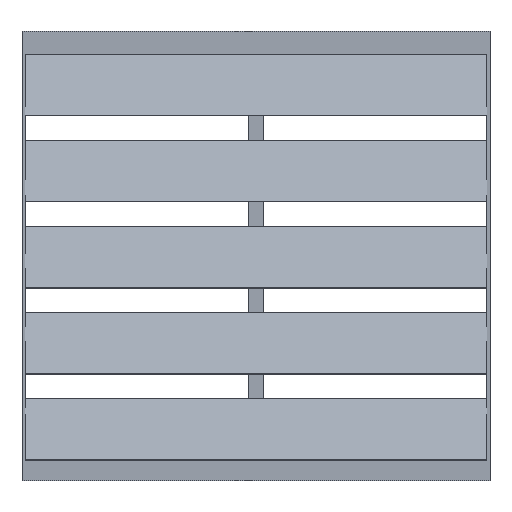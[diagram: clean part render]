
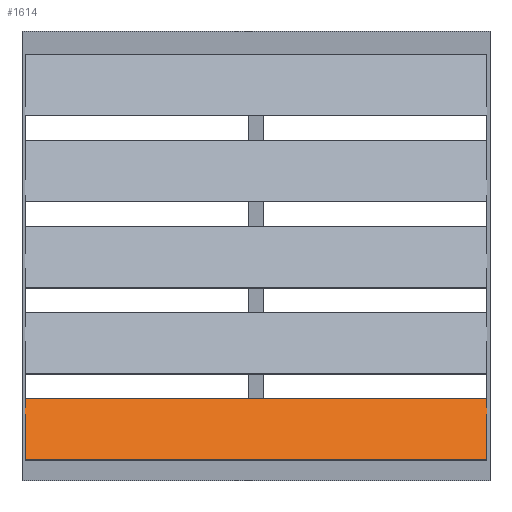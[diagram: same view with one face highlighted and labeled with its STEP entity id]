
A CAD part, front view. The second image highlights one B-rep face of the part: STEP entity #1614.
In plain terms, the highlighted planar face has unit normal (0, -0.707, 0.707).
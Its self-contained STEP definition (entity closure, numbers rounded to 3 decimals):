
#68=FACE_OUTER_BOUND('',#144,.T.);
#144=EDGE_LOOP('',(#1076,#1077,#1078,#1079,#1080,#1081,#1082,#1083));
#236=LINE('',#2247,#451);
#240=LINE('',#2254,#455);
#242=LINE('',#2259,#457);
#246=LINE('',#2266,#461);
#247=LINE('',#2268,#462);
#248=LINE('',#2270,#463);
#249=LINE('',#2271,#464);
#250=LINE('',#2272,#465);
#451=VECTOR('',#1813,10.);
#455=VECTOR('',#1819,10.);
#457=VECTOR('',#1823,10.);
#461=VECTOR('',#1829,10.);
#462=VECTOR('',#1832,10.);
#463=VECTOR('',#1835,10.);
#464=VECTOR('',#1836,10.);
#465=VECTOR('',#1837,10.);
#665=VERTEX_POINT('',#2244);
#666=VERTEX_POINT('',#2246);
#667=VERTEX_POINT('',#2250);
#668=VERTEX_POINT('',#2252);
#669=VERTEX_POINT('',#2256);
#670=VERTEX_POINT('',#2258);
#671=VERTEX_POINT('',#2262);
#672=VERTEX_POINT('',#2264);
#814=EDGE_CURVE('',#666,#665,#236,.T.);
#818=EDGE_CURVE('',#667,#668,#240,.T.);
#820=EDGE_CURVE('',#670,#669,#242,.T.);
#824=EDGE_CURVE('',#671,#672,#246,.T.);
#825=EDGE_CURVE('',#668,#670,#247,.T.);
#826=EDGE_CURVE('',#666,#669,#248,.T.);
#827=EDGE_CURVE('',#671,#665,#249,.T.);
#828=EDGE_CURVE('',#667,#672,#250,.T.);
#1076=ORIENTED_EDGE('',*,*,#825,.T.);
#1077=ORIENTED_EDGE('',*,*,#820,.T.);
#1078=ORIENTED_EDGE('',*,*,#826,.F.);
#1079=ORIENTED_EDGE('',*,*,#814,.T.);
#1080=ORIENTED_EDGE('',*,*,#827,.F.);
#1081=ORIENTED_EDGE('',*,*,#824,.T.);
#1082=ORIENTED_EDGE('',*,*,#828,.F.);
#1083=ORIENTED_EDGE('',*,*,#818,.T.);
#1546=PLANE('',#1698);
#1614=ADVANCED_FACE('',(#68),#1546,.F.);
#1698=AXIS2_PLACEMENT_3D('',#2269,#1833,#1834);
#1813=DIRECTION('',(-1.,0.,0.));
#1819=DIRECTION('',(0.,-0.707,-0.707));
#1823=DIRECTION('',(0.,0.707,0.707));
#1829=DIRECTION('',(-1.,0.,0.));
#1832=DIRECTION('',(1.,0.,0.));
#1833=DIRECTION('center_axis',(0.,0.707,-0.707));
#1834=DIRECTION('ref_axis',(-1.,0.,0.));
#1835=DIRECTION('',(0.,-0.707,-0.707));
#1836=DIRECTION('',(1.,0.,0.));
#1837=DIRECTION('',(0.,0.707,0.707));
#2244=CARTESIAN_POINT('',(17.1,0.,-313.5));
#2246=CARTESIAN_POINT('',(506.,0.,-313.5));
#2247=CARTESIAN_POINT('',(506.,0.,-313.5));
#2250=CARTESIAN_POINT('',(-506.,-20.,-333.5));
#2252=CARTESIAN_POINT('',(-506.,-133.643,-447.143));
#2254=CARTESIAN_POINT('',(-506.,0.,-313.5));
#2256=CARTESIAN_POINT('',(506.,-20.,-333.5));
#2258=CARTESIAN_POINT('',(506.,-133.643,-447.143));
#2259=CARTESIAN_POINT('',(506.,-133.643,-447.143));
#2262=CARTESIAN_POINT('',(-17.1,0.,-313.5));
#2264=CARTESIAN_POINT('',(-506.,0.,-313.5));
#2266=CARTESIAN_POINT('',(506.,0.,-313.5));
#2268=CARTESIAN_POINT('',(-506.,-133.643,-447.143));
#2269=CARTESIAN_POINT('Origin',(0.,-66.822,
-380.322));
#2270=CARTESIAN_POINT('',(506.,150.589,-162.911));
#2271=CARTESIAN_POINT('',(-261.55,0.,-313.5));
#2272=CARTESIAN_POINT('',(-506.,-70.661,-384.161));
